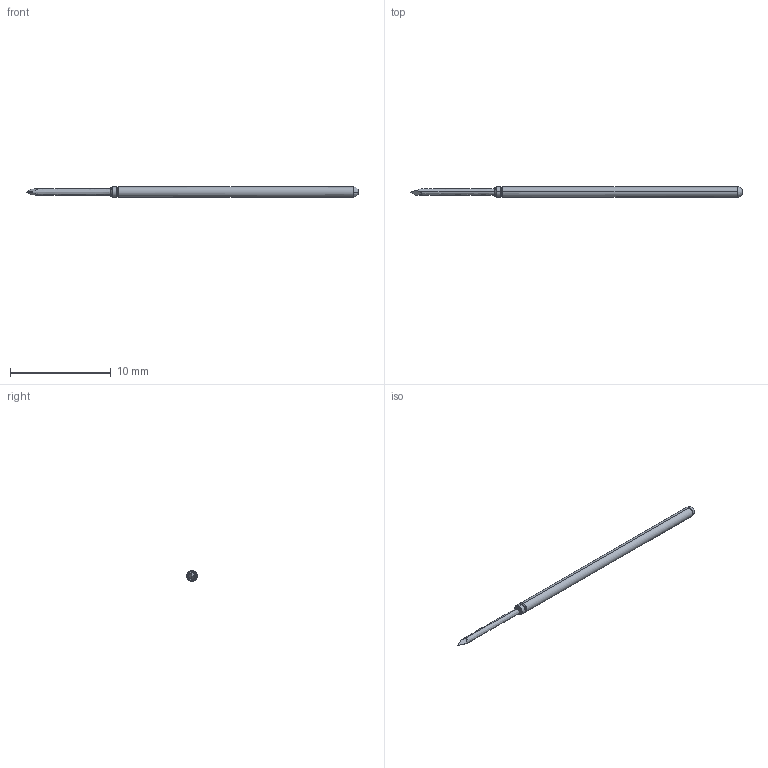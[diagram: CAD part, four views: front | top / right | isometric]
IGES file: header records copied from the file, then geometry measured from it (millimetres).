
Start section: SolidWorks IGES file using analytic representation for surfaces
Global section: file name: \\CODA-VM-SBS\RedirectedFolders\georged\My Documents\CODA FILES NEW\ATE TEST PROBES\LPA2 & ST-LPA2 SERIES\LF-LPA2T-030.IGS; native system: SolidWorks 2022; preprocessor: SolidWorks 2022; author: GeorgeD; date: 230605.104555; units: inch
Bounding box: 33.02 x 1.02 x 1.02 mm (x, y, z)
Surface area: 95.2 mm2 (no closed solid volume)
Topology: 0 solids, 0 shells, 22 faces, 161 edges, 161 vertices
Faces by surface type: bspline 22
